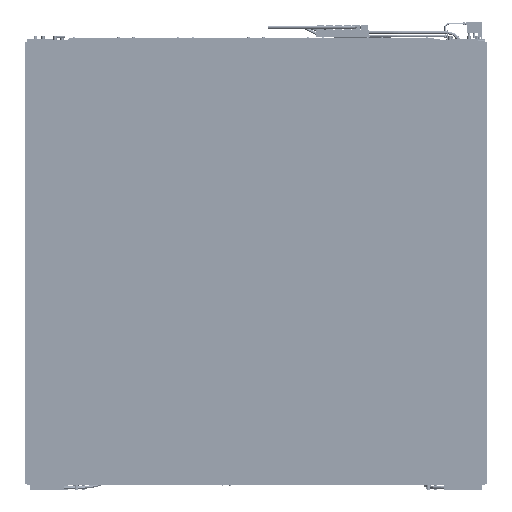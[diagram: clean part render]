
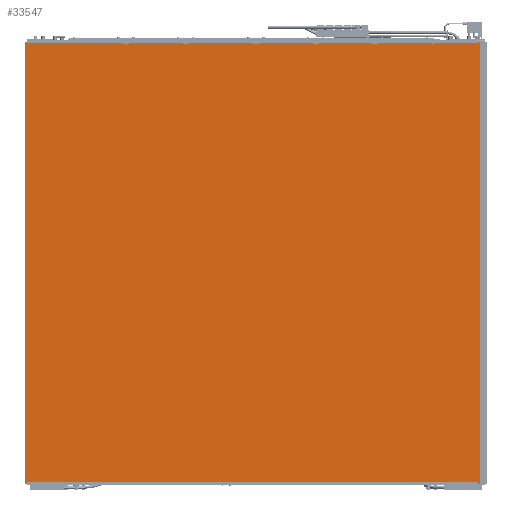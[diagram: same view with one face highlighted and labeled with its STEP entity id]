
A CAD part, front view. The second image highlights one B-rep face of the part: STEP entity #33547.
In plain terms, the highlighted planar face has unit normal (0, -1, 0).
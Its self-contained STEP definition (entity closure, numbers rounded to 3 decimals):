
#33547=ADVANCED_FACE('',(#49938),#42672,.F.);
#42672=PLANE('',#198616);
#49938=FACE_OUTER_BOUND('',#61194,.T.);
#61194=EDGE_LOOP('',(#87272,#87273,#87274,#87275));
#87272=ORIENTED_EDGE('',*,*,#144633,.T.);
#87273=ORIENTED_EDGE('',*,*,#144634,.T.);
#87274=ORIENTED_EDGE('',*,*,#144635,.T.);
#87275=ORIENTED_EDGE('',*,*,#144636,.T.);
#125980=VERTEX_POINT('',#288663);
#125981=VERTEX_POINT('',#288664);
#125982=VERTEX_POINT('',#288666);
#125983=VERTEX_POINT('',#288668);
#144633=EDGE_CURVE('',#125980,#125981,#165668,.T.);
#144634=EDGE_CURVE('',#125981,#125982,#165669,.T.);
#144635=EDGE_CURVE('',#125982,#125983,#165670,.T.);
#144636=EDGE_CURVE('',#125983,#125980,#165671,.T.);
#165668=LINE('',#288662,#180476);
#165669=LINE('',#288665,#180477);
#165670=LINE('',#288667,#180478);
#165671=LINE('',#288669,#180479);
#180476=VECTOR('',#227107,1.);
#180477=VECTOR('',#227108,1.);
#180478=VECTOR('',#227109,1.);
#180479=VECTOR('',#227110,1.);
#198616=AXIS2_PLACEMENT_3D('',#288670,#227111,#227112);
#227107=DIRECTION('',(1.,0.,0.));
#227108=DIRECTION('',(0.,0.,1.));
#227109=DIRECTION('',(-1.,0.,0.));
#227110=DIRECTION('',(0.,0.,-1.));
#227111=DIRECTION('',(0.,1.,0.));
#227112=DIRECTION('',(-1.,0.,0.));
#288662=CARTESIAN_POINT('',(-1388.7,-7364.3,4085.5));
#288663=CARTESIAN_POINT('',(-2673.7,-7364.3,4085.5));
#288664=CARTESIAN_POINT('',(-103.7,-7364.3,4085.5));
#288665=CARTESIAN_POINT('',(-103.7,-7364.3,5333.5));
#288666=CARTESIAN_POINT('',(-103.7,-7364.3,6581.5));
#288667=CARTESIAN_POINT('',(-1388.7,-7364.3,6581.5));
#288668=CARTESIAN_POINT('',(-2673.7,-7364.3,6581.5));
#288669=CARTESIAN_POINT('',(-2673.7,-7364.3,5333.5));
#288670=CARTESIAN_POINT('',(-103.7,-7364.3,4085.5));
